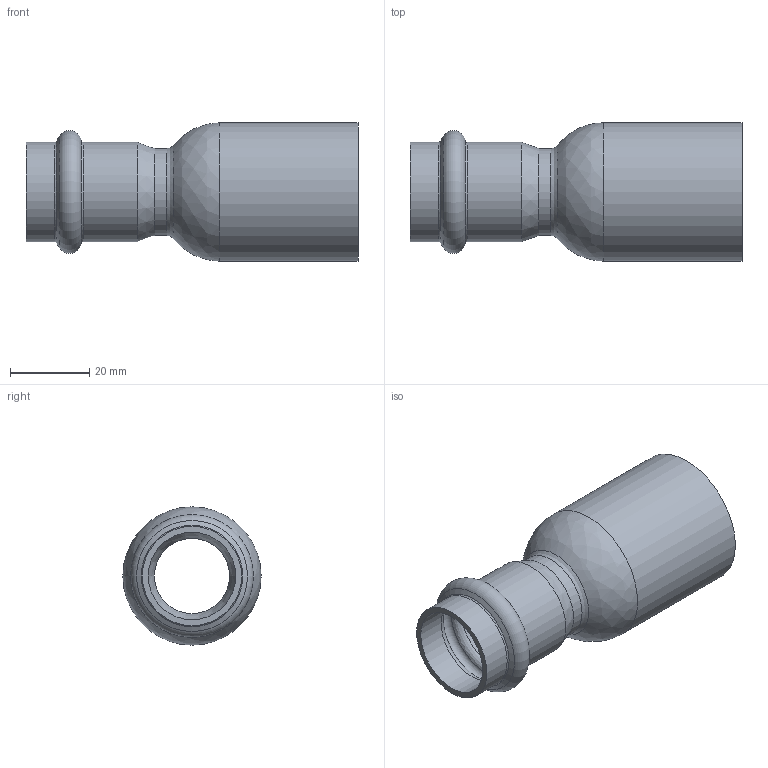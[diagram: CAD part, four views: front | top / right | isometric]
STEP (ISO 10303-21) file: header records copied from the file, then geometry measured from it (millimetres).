
FILE_DESCRIPTION((''),'2;1');
FILE_NAME('G:\Technics\CAD\Bauteile\035\692433522(1).stp','2008-03-03T10:05:26',('herberg'),(''),'Autodesk Inventor 2008','Autodesk Inventor 2008','');
FILE_SCHEMA(('AUTOMOTIVE_DESIGN { 1 0 10303 214 1 1 1 1 }'));
Length unit declared in the file: millimetre
Products named in the file (1): 692433522(1)
Bounding box: 84 x 35 x 35 mm (x, y, z)
Volume: 11973.5 mm3; surface area: 16233.3 mm2
Topology: 1 solids, 1 shells, 24 faces, 50 edges, 28 vertices
Faces by surface type: bspline 8, cylinder 8, cone 4, torus 2, plane 2
Full cylindrical faces by diameter (mm): 19 x1, 22 x1, 22.15 x2, 25.15 x2, 32 x1, 35 x1
Entity records: 798 total; most frequent: CARTESIAN_POINT 389, DIRECTION 82, ORIENTED_EDGE 48, EDGE_LOOP 48, AXIS2_PLACEMENT_3D 41, VERTEX_POINT 24, CIRCLE 24, EDGE_CURVE 24
